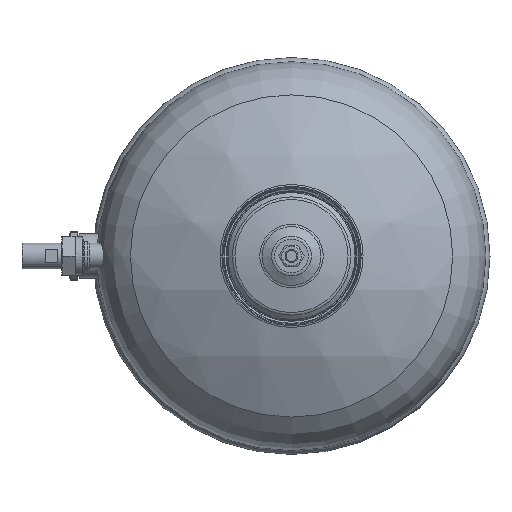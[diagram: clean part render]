
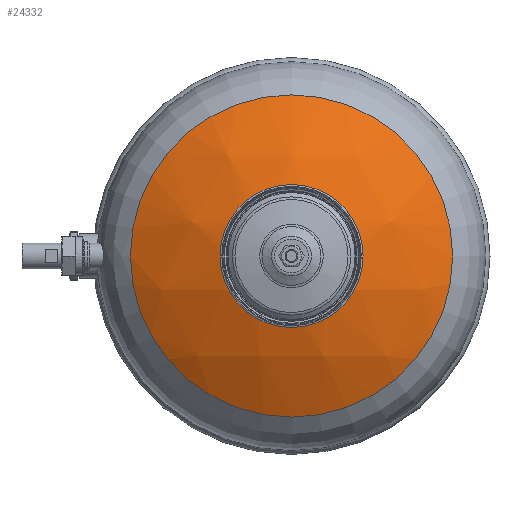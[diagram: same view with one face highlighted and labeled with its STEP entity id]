
A CAD part, front view. The second image highlights one B-rep face of the part: STEP entity #24332.
In plain terms, the highlighted spherical face has radius 244 mm.
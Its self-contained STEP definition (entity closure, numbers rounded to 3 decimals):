
#580=SPHERICAL_SURFACE('',#26193,244.);
#1322=FACE_BOUND('',#5740,.T.);
#4227=FACE_OUTER_BOUND('',#5739,.T.);
#5739=EDGE_LOOP('',(#22323));
#5740=EDGE_LOOP('',(#22324));
#9712=CIRCLE('',#26194,125.194);
#9713=CIRCLE('',#26195,50.071);
#12047=VERTEX_POINT('',#51227);
#12048=VERTEX_POINT('',#51229);
#15526=EDGE_CURVE('',#12047,#12047,#9712,.T.);
#15527=EDGE_CURVE('',#12048,#12048,#9713,.T.);
#22323=ORIENTED_EDGE('',*,*,#15526,.F.);
#22324=ORIENTED_EDGE('',*,*,#15527,.F.);
#24332=ADVANCED_FACE('',(#4227,#1322),#580,.T.);
#26193=AXIS2_PLACEMENT_3D('',#51226,#31420,#31421);
#26194=AXIS2_PLACEMENT_3D('',#51228,#31422,#31423);
#26195=AXIS2_PLACEMENT_3D('',#51230,#31424,#31425);
#31420=DIRECTION('center_axis',(0.,0.,
-1.));
#31421=DIRECTION('ref_axis',(1.,0.,0.));
#31422=DIRECTION('center_axis',(0.,1.,0.));
#31423=DIRECTION('ref_axis',(-1.,0.,0.));
#31424=DIRECTION('center_axis',(0.,-1.,0.));
#31425=DIRECTION('ref_axis',(0.,0.,1.));
#51226=CARTESIAN_POINT('Origin',(0.,84.321,
0.));
#51227=CARTESIAN_POINT('',(-125.194,-125.112,0.));
#51228=CARTESIAN_POINT('Origin',(0.,-125.112,
0.));
#51229=CARTESIAN_POINT('',(0.,-154.486,-50.071));
#51230=CARTESIAN_POINT('Origin',(0.,-154.486,
0.));
